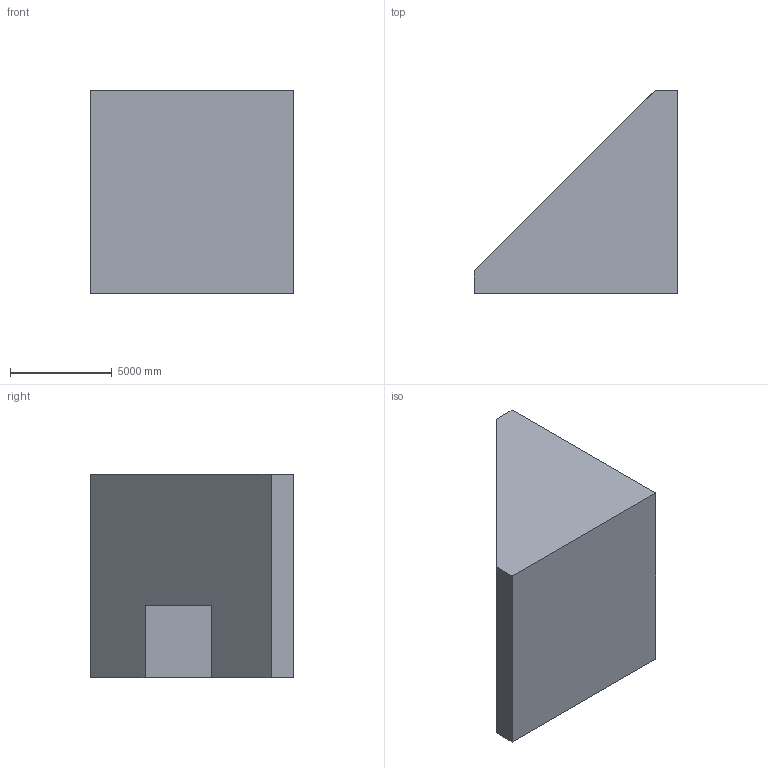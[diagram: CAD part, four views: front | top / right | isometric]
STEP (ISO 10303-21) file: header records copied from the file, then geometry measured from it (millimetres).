
FILE_DESCRIPTION (( 'STEP AP203' ), '1' );
FILE_NAME ('1017.STEP', '2022-08-18T12:26:16', ( 'user' ), ( '' ), 'SwSTEP 2.0', 'SolidWorks 2021', '' );
FILE_SCHEMA (( 'CONFIG_CONTROL_DESIGN' ));
Length unit declared in the file: centimetre
Products named in the file (1): 1017
Bounding box: 10000 x 10000 x 10000 mm (x, y, z)
Volume: 576101581775.2 mm3; surface area: 483866856.9 mm2
Topology: 1 solids, 1 shells, 10 faces, 24 edges, 16 vertices
Faces by surface type: plane 10
Entity records: 365 total; most frequent: CARTESIAN_POINT 51, ORIENTED_EDGE 48, DIRECTION 46, VECTOR 24, EDGE_CURVE 24, LINE 24, VERTEX_POINT 16, AXIS2_PLACEMENT_3D 11
